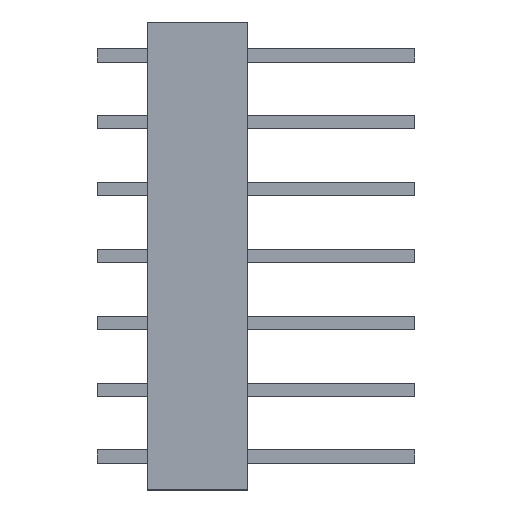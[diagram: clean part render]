
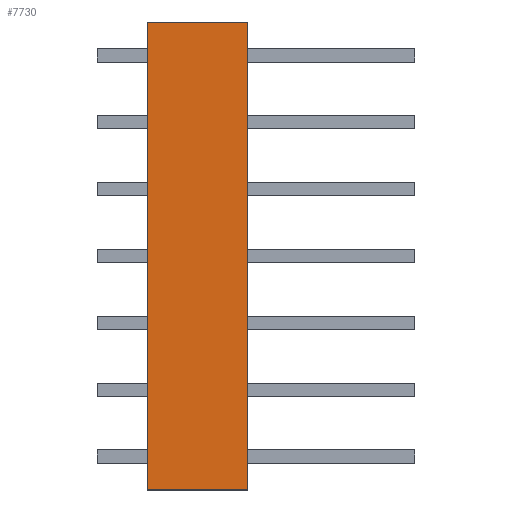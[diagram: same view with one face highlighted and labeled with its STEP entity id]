
A CAD part, left-side view. The second image highlights one B-rep face of the part: STEP entity #7730.
In plain terms, the highlighted planar face has unit normal (-1, 0, 0).
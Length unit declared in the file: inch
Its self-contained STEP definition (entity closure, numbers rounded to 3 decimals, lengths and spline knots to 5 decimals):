
#440 = CARTESIAN_POINT ( 'NONE',  ( -0.6, 0.15, 0.35 ) ) ;
#472 = VECTOR ( 'NONE', #2774, 39.37008 ) ;
#818 = ORIENTED_EDGE ( 'NONE', *, *, #6030, .T. ) ;
#1018 = LINE ( 'NONE', #7209, #1822 ) ;
#1421 = CARTESIAN_POINT ( 'NONE',  ( -0.6, 0., 0.35 ) ) ;
#1428 = DIRECTION ( 'NONE',  ( 0., 0., 1. ) ) ;
#1687 = LINE ( 'NONE', #1421, #472 ) ;
#1729 = VERTEX_POINT ( 'NONE', #7032 ) ;
#1822 = VECTOR ( 'NONE', #4567, 39.37008 ) ;
#2605 = VERTEX_POINT ( 'NONE', #2837 ) ;
#2774 = DIRECTION ( 'NONE',  ( 0., 0., 1. ) ) ;
#2837 = CARTESIAN_POINT ( 'NONE',  ( -0.6, 0.15, -0.35 ) ) ;
#3105 = ORIENTED_EDGE ( 'NONE', *, *, #5321, .T. ) ;
#3120 = DIRECTION ( 'NONE',  ( 0., 0., -1. ) ) ;
#3475 = LINE ( 'NONE', #6790, #3991 ) ;
#3916 = CARTESIAN_POINT ( 'NONE',  ( -0.6, 0., -0.35 ) ) ;
#3991 = VECTOR ( 'NONE', #4891, 39.37008 ) ;
#4079 = LINE ( 'NONE', #4720, #7340 ) ;
#4173 = EDGE_LOOP ( 'NONE', ( #818, #7709, #6981, #3105 ) ) ;
#4567 = DIRECTION ( 'NONE',  ( 0., -1., 0. ) ) ;
#4720 = CARTESIAN_POINT ( 'NONE',  ( -0.6, 0.15, 0.35 ) ) ;
#4776 = EDGE_CURVE ( 'NONE', #1729, #6582, #3475, .T. ) ;
#4891 = DIRECTION ( 'NONE',  ( 0., -1., 0. ) ) ;
#5321 = EDGE_CURVE ( 'NONE', #2605, #8421, #1018, .T. ) ;
#5428 = EDGE_CURVE ( 'NONE', #2605, #1729, #4079, .T. ) ;
#5655 = DIRECTION ( 'NONE',  ( 1., 0., 0. ) ) ;
#6030 = EDGE_CURVE ( 'NONE', #8421, #6582, #1687, .T. ) ;
#6582 = VERTEX_POINT ( 'NONE', #7021 ) ;
#6790 = CARTESIAN_POINT ( 'NONE',  ( -0.6, 0.15, 0.35 ) ) ;
#6981 = ORIENTED_EDGE ( 'NONE', *, *, #5428, .F. ) ;
#7021 = CARTESIAN_POINT ( 'NONE',  ( -0.6, 0., 0.35 ) ) ;
#7026 = PLANE ( 'NONE',  #7875 ) ;
#7032 = CARTESIAN_POINT ( 'NONE',  ( -0.6, 0.15, 0.35 ) ) ;
#7209 = CARTESIAN_POINT ( 'NONE',  ( -0.6, 0.15, -0.35 ) ) ;
#7340 = VECTOR ( 'NONE', #1428, 39.37008 ) ;
#7375 = FACE_OUTER_BOUND ( 'NONE', #4173, .T. ) ;
#7709 = ORIENTED_EDGE ( 'NONE', *, *, #4776, .F. ) ;
#7730 = ADVANCED_FACE ( 'NONE', ( #7375 ), #7026, .F. ) ;
#7875 = AXIS2_PLACEMENT_3D ( 'NONE', #440, #5655, #3120 ) ;
#8421 = VERTEX_POINT ( 'NONE', #3916 ) ;
